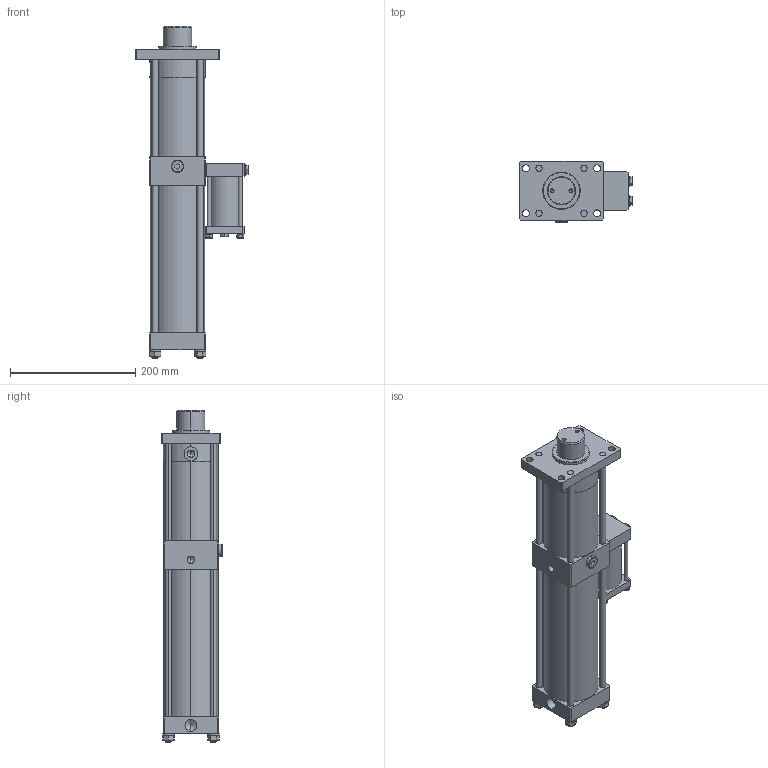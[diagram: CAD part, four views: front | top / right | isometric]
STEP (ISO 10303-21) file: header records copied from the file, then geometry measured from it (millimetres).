
FILE_DESCRIPTION (( 'STEP AP214' ), '1' );
FILE_NAME ('PCS3 8045 VC16.STEP', '2016-02-18T09:16:48', ( 'Admin' ), ( '' ), 'SwSTEP 2.0', 'SolidWorks 2015', '' );
FILE_SCHEMA (( 'AUTOMOTIVE_DESIGN' ));
Length unit declared in the file: millimetre
Products named in the file (8): hexagon nut style 1_is_IS 1364-3 - M10-W-N; spring lock washer 3063_is_IS 3063- 10-A; hhb(grade a)_is_IS 1364 HHB(Grade A) - M8 x 40 x 22-N; plain washer (type a)_is_IS 2016 A- 9; hexagon nut style 1_is_IS 1364-3 - M6-W-N; spring lock washer 6735_is_IS 6735- 6; PCS3 8045 VC09_PCS3 8045 VC16; PCS3 8045 VC16
Assembly tree (21 placements, depth 2):
  PCS3 8045 VC16
    PCS3 8045 VC09_PCS3 8045 VC16
    spring lock washer 6735_is_IS 6735- 6  x4
    hexagon nut style 1_is_IS 1364-3 - M6-W-N  x4
    plain washer (type a)_is_IS 2016 A- 9  x2
    hhb(grade a)_is_IS 1364 HHB(Grade A) - M8 x 40 x 22-N  x2
    spring lock washer 3063_is_IS 3063- 10-A  x4
    hexagon nut style 1_is_IS 1364-3 - M10-W-N  x4
Bounding box: 180.4 x 97.5 x 531 mm (x, y, z)
Volume: 3461720.8 mm3; surface area: 321920.5 mm2
Topology: 21 solids, 22 shells, 655 faces, 1511 edges, 923 vertices
Faces by surface type: plane 273, cylinder 200, cone 144, torus 38
Entity records: 11121 total; most frequent: CARTESIAN_POINT 2098, DIRECTION 1805, ORIENTED_EDGE 1606, EDGE_CURVE 803, AXIS2_PLACEMENT_3D 697, VERTEX_POINT 504, EDGE_LOOP 425, VECTOR 411
